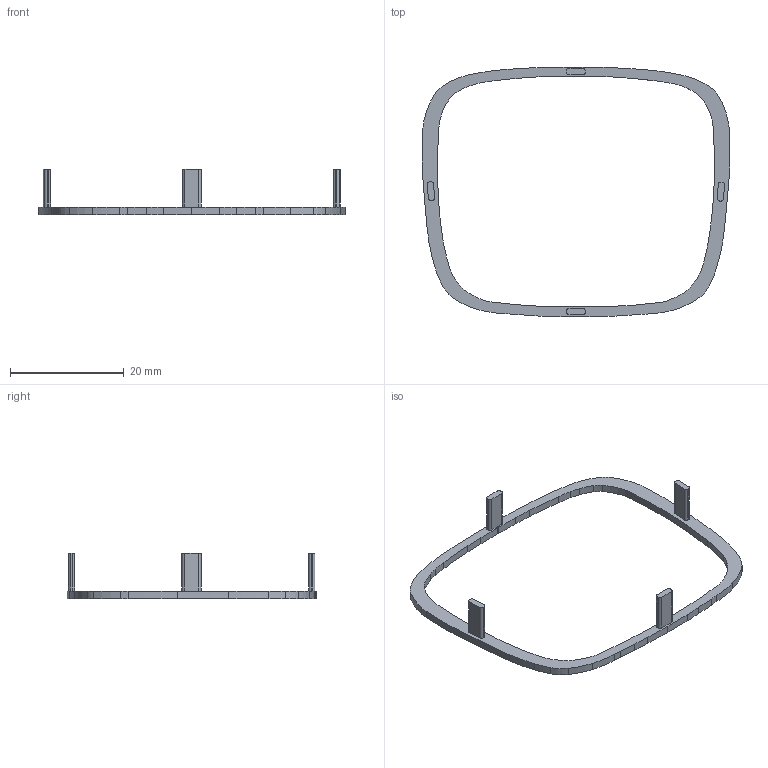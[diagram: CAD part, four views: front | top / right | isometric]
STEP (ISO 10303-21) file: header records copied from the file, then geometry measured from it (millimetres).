
FILE_DESCRIPTION(/* description */ (''),/* implementation_level */ '2;1');
FILE_NAME(/* name */ 'Outside.step',/* time_stamp */ '2024-05-20T23:39:06+02:00',/* author */ (''),/* organization */ (''),/* preprocessor_version */ 'ST-DEVELOPER v20',/* originating_system */ 'Autodesk Translation Framework v12.20.1.177',/* authorisation */ '');
FILE_SCHEMA (('AUTOMOTIVE_DESIGN { 1 0 10303 214 3 1 1 }'));
Length unit declared in the file: millimetre
Products named in the file (1): Hondaemblem
Bounding box: 54.2 x 43.98 x 7.96 mm (x, y, z)
Volume: 561.3 mm3; surface area: 1356 mm2
Topology: 1 solids, 1 shells, 112 faces, 318 edges, 212 vertices
Faces by surface type: cylinder 82, plane 30
Entity records: 3770 total; most frequent: DIRECTION 708, CARTESIAN_POINT 643, ORIENTED_EDGE 636, EDGE_CURVE 318, AXIS2_PLACEMENT_3D 277, VERTEX_POINT 212, CIRCLE 164, LINE 154
